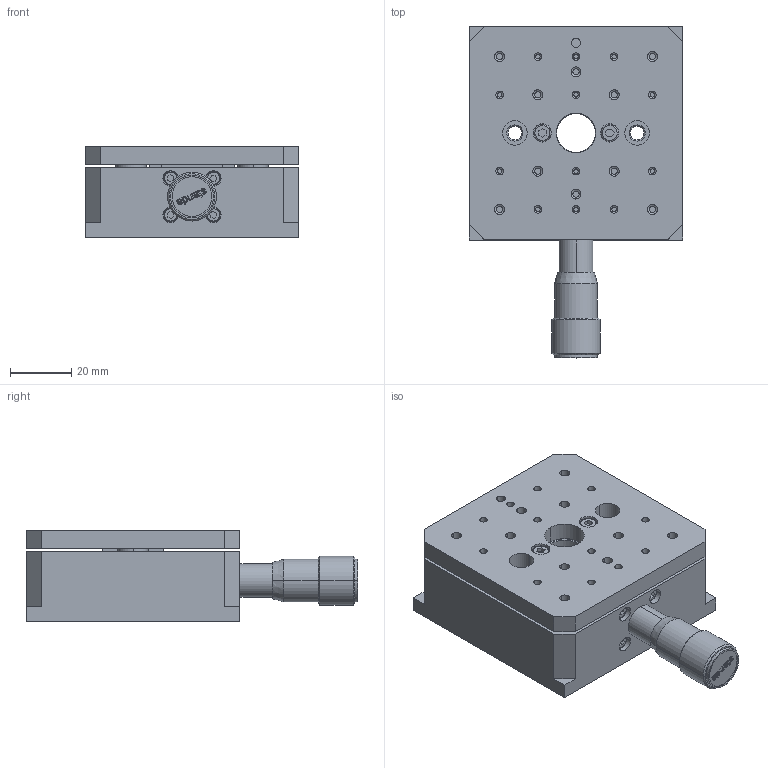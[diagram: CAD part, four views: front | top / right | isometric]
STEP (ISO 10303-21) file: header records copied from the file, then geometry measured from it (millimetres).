
FILE_DESCRIPTION (( 'STEP AP203' ), '1' );
FILE_NAME ('7TLF1.STEP', '2008-09-25T06:13:19', ( 'Darius' ), ( '' ), 'SwSTEP 2.0', 'SolidWorks 2003240', '' );
FILE_SCHEMA (( 'CONFIG_CONTROL_DESIGN' ));
Length unit declared in the file: millimetre
Products named in the file (1): 7TLF1
Bounding box: 70 x 108.6 x 30 mm (x, y, z)
Volume: 137734.5 mm3; surface area: 35992.3 mm2
Topology: 1 solids, 26 shells, 695 faces, 1709 edges, 1106 vertices
Faces by surface type: cylinder 274, plane 222, bspline 111, cone 88
Entity records: 24091 total; most frequent: CARTESIAN_POINT 7715, ORIENTED_EDGE 3386, DIRECTION 3302, EDGE_CURVE 1693, AXIS2_PLACEMENT_3D 1241, VERTEX_POINT 1106, EDGE_LOOP 837, VECTOR 820
